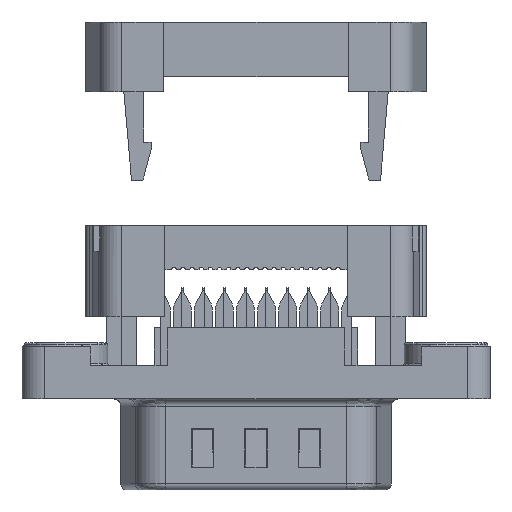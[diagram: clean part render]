
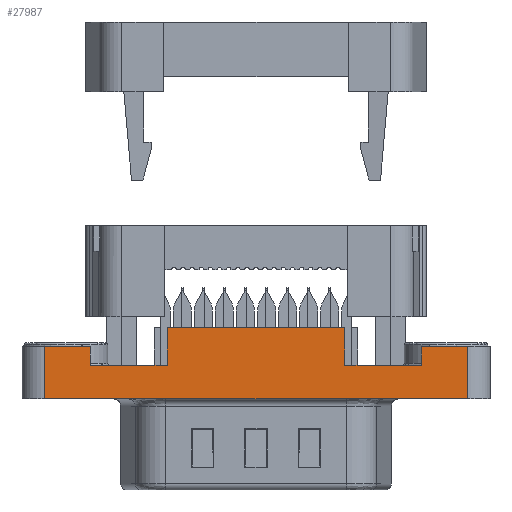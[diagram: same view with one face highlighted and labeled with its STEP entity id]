
A CAD part, front view. The second image highlights one B-rep face of the part: STEP entity #27987.
In plain terms, the highlighted planar face has unit normal (0, -1, 0).
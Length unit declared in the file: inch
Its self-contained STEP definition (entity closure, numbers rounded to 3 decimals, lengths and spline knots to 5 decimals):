
#130 = VERTEX_POINT ( 'NONE', #16359 ) ;
#527 = LINE ( 'NONE', #31569, #22402 ) ;
#558 = VECTOR ( 'NONE', #21174, 39.37008 ) ;
#1211 = CARTESIAN_POINT ( 'NONE',  ( -1.88848, 0.38027, 0.10951 ) ) ;
#1310 = LINE ( 'NONE', #13177, #30810 ) ;
#2775 = VERTEX_POINT ( 'NONE', #14000 ) ;
#2844 = DIRECTION ( 'NONE',  ( 1., 0., 0. ) ) ;
#2912 = CARTESIAN_POINT ( 'NONE',  ( -2.00659, 0.38027, 0.10951 ) ) ;
#3287 = DIRECTION ( 'NONE',  ( 0., 0., -1. ) ) ;
#3403 = ORIENTED_EDGE ( 'NONE', *, *, #4699, .F. ) ;
#4699 = EDGE_CURVE ( 'NONE', #22787, #25798, #1310, .T. ) ;
#4796 = DIRECTION ( 'NONE',  ( 0., 0., 1. ) ) ;
#4803 = DIRECTION ( 'NONE',  ( 0., 0., -1. ) ) ;
#6307 = CARTESIAN_POINT ( 'NONE',  ( -1.03021, 0.38027, -0.00978 ) ) ;
#7092 = VECTOR ( 'NONE', #25280, 39.37008 ) ;
#7153 = VERTEX_POINT ( 'NONE', #32714 ) ;
#7432 = PLANE ( 'NONE',  #22238 ) ;
#7435 = VERTEX_POINT ( 'NONE', #22308 ) ;
#7512 = DIRECTION ( 'NONE',  ( 1., 0., 0. ) ) ;
#7519 = EDGE_CURVE ( 'NONE', #7153, #2775, #31250, .T. ) ;
#8164 = ORIENTED_EDGE ( 'NONE', *, *, #23855, .F. ) ;
#8484 = VECTOR ( 'NONE', #2844, 39.37008 ) ;
#8589 = EDGE_CURVE ( 'NONE', #7435, #17247, #17730, .T. ) ;
#8994 = CARTESIAN_POINT ( 'NONE',  ( -2.00659, 0.38027, 0.06109 ) ) ;
#10977 = CARTESIAN_POINT ( 'NONE',  ( -2.00659, 0.38027, 0.10951 ) ) ;
#11181 = ORIENTED_EDGE ( 'NONE', *, *, #35581, .F. ) ;
#11545 = LINE ( 'NONE', #6307, #23119 ) ;
#11718 = ORIENTED_EDGE ( 'NONE', *, *, #19691, .F. ) ;
#11893 = DIRECTION ( 'NONE',  ( 0., 0., -1. ) ) ;
#12296 = VERTEX_POINT ( 'NONE', #23537 ) ;
#12734 = VERTEX_POINT ( 'NONE', #2912 ) ;
#12806 = CARTESIAN_POINT ( 'NONE',  ( -2.00659, 0.38027, 0.06109 ) ) ;
#12854 = CARTESIAN_POINT ( 'NONE',  ( -0.9121, 0.38027, -0.02552 ) ) ;
#12873 = VECTOR ( 'NONE', #13749, 39.37008 ) ;
#13174 = CARTESIAN_POINT ( 'NONE',  ( -2.00659, 0.38027, -0.02552 ) ) ;
#13177 = CARTESIAN_POINT ( 'NONE',  ( -1.22903, 0.38027, 0.15951 ) ) ;
#13217 = DIRECTION ( 'NONE',  ( 0., 0., 1. ) ) ;
#13269 = CARTESIAN_POINT ( 'NONE',  ( -1.68966, 0.38027, 0.15951 ) ) ;
#13333 = EDGE_CURVE ( 'NONE', #22385, #2775, #527, .T. ) ;
#13749 = DIRECTION ( 'NONE',  ( 1., 0., 0. ) ) ;
#14000 = CARTESIAN_POINT ( 'NONE',  ( -1.68966, 0.38027, 0.06109 ) ) ;
#14063 = EDGE_CURVE ( 'NONE', #25798, #130, #26789, .T. ) ;
#14975 = ORIENTED_EDGE ( 'NONE', *, *, #35258, .F. ) ;
#15302 = LINE ( 'NONE', #16865, #27431 ) ;
#15584 = VECTOR ( 'NONE', #13217, 39.37008 ) ;
#15723 = CARTESIAN_POINT ( 'NONE',  ( -1.22903, 0.38027, 0.15951 ) ) ;
#15939 = CARTESIAN_POINT ( 'NONE',  ( -2.00659, 0.38027, -0.00978 ) ) ;
#16165 = EDGE_CURVE ( 'NONE', #130, #20727, #11545, .T. ) ;
#16359 = CARTESIAN_POINT ( 'NONE',  ( -1.03021, 0.38027, 0.06109 ) ) ;
#16377 = VECTOR ( 'NONE', #3287, 39.37008 ) ;
#16436 = CARTESIAN_POINT ( 'NONE',  ( -1.22903, 0.38027, 0.06109 ) ) ;
#16865 = CARTESIAN_POINT ( 'NONE',  ( -1.03021, 0.38027, 0.10951 ) ) ;
#17079 = ORIENTED_EDGE ( 'NONE', *, *, #13333, .T. ) ;
#17247 = VERTEX_POINT ( 'NONE', #12854 ) ;
#17730 = LINE ( 'NONE', #34256, #16377 ) ;
#17922 = DIRECTION ( 'NONE',  ( 0., 0., 1. ) ) ;
#18850 = LINE ( 'NONE', #26726, #558 ) ;
#19691 = EDGE_CURVE ( 'NONE', #12734, #22745, #24501, .T. ) ;
#19884 = ORIENTED_EDGE ( 'NONE', *, *, #14063, .F. ) ;
#20293 = LINE ( 'NONE', #28998, #34144 ) ;
#20727 = VERTEX_POINT ( 'NONE', #27289 ) ;
#21174 = DIRECTION ( 'NONE',  ( -1., 0., 0. ) ) ;
#22238 = AXIS2_PLACEMENT_3D ( 'NONE', #13174, #33120, #4796 ) ;
#22308 = CARTESIAN_POINT ( 'NONE',  ( -0.9121, 0.38027, 0.10951 ) ) ;
#22385 = VERTEX_POINT ( 'NONE', #13269 ) ;
#22394 = EDGE_CURVE ( 'NONE', #20727, #7435, #15302, .T. ) ;
#22402 = VECTOR ( 'NONE', #26227, 39.37008 ) ;
#22745 = VERTEX_POINT ( 'NONE', #1211 ) ;
#22787 = VERTEX_POINT ( 'NONE', #36516 ) ;
#23119 = VECTOR ( 'NONE', #17922, 39.37008 ) ;
#23537 = CARTESIAN_POINT ( 'NONE',  ( -2.00659, 0.38027, -0.02552 ) ) ;
#23541 = ORIENTED_EDGE ( 'NONE', *, *, #8589, .F. ) ;
#23855 = EDGE_CURVE ( 'NONE', #17247, #12296, #18850, .T. ) ;
#23872 = LINE ( 'NONE', #15723, #24798 ) ;
#24501 = LINE ( 'NONE', #10977, #12873 ) ;
#24798 = VECTOR ( 'NONE', #7512, 39.37008 ) ;
#25156 = ORIENTED_EDGE ( 'NONE', *, *, #22394, .F. ) ;
#25280 = DIRECTION ( 'NONE',  ( 1., 0., 0. ) ) ;
#25798 = VERTEX_POINT ( 'NONE', #16436 ) ;
#26219 = FACE_OUTER_BOUND ( 'NONE', #33210, .T. ) ;
#26222 = ORIENTED_EDGE ( 'NONE', *, *, #16165, .F. ) ;
#26227 = DIRECTION ( 'NONE',  ( 0., 0., -1. ) ) ;
#26726 = CARTESIAN_POINT ( 'NONE',  ( -0.85305, 0.38027, -0.02552 ) ) ;
#26789 = LINE ( 'NONE', #12806, #7092 ) ;
#27289 = CARTESIAN_POINT ( 'NONE',  ( -1.03021, 0.38027, 0.10951 ) ) ;
#27431 = VECTOR ( 'NONE', #33086, 39.37008 ) ;
#27987 = ADVANCED_FACE ( 'NONE', ( #26219 ), #7432, .F. ) ;
#28281 = ORIENTED_EDGE ( 'NONE', *, *, #7519, .F. ) ;
#28998 = CARTESIAN_POINT ( 'NONE',  ( -1.88848, 0.38027, -0.00978 ) ) ;
#30442 = ORIENTED_EDGE ( 'NONE', *, *, #34404, .F. ) ;
#30810 = VECTOR ( 'NONE', #4803, 39.37008 ) ;
#31250 = LINE ( 'NONE', #8994, #8484 ) ;
#31569 = CARTESIAN_POINT ( 'NONE',  ( -1.68966, 0.38027, 0.15951 ) ) ;
#32714 = CARTESIAN_POINT ( 'NONE',  ( -1.88848, 0.38027, 0.06109 ) ) ;
#33086 = DIRECTION ( 'NONE',  ( 1., 0., 0. ) ) ;
#33120 = DIRECTION ( 'NONE',  ( 0., 1., 0. ) ) ;
#33210 = EDGE_LOOP ( 'NONE', ( #23541, #25156, #26222, #19884, #3403, #11181, #17079, #28281, #14975, #11718, #30442, #8164 ) ) ;
#33890 = LINE ( 'NONE', #15939, #15584 ) ;
#34144 = VECTOR ( 'NONE', #11893, 39.37008 ) ;
#34256 = CARTESIAN_POINT ( 'NONE',  ( -0.9121, 0.38027, -0.02552 ) ) ;
#34404 = EDGE_CURVE ( 'NONE', #12296, #12734, #33890, .T. ) ;
#35258 = EDGE_CURVE ( 'NONE', #22745, #7153, #20293, .T. ) ;
#35581 = EDGE_CURVE ( 'NONE', #22385, #22787, #23872, .T. ) ;
#36516 = CARTESIAN_POINT ( 'NONE',  ( -1.22903, 0.38027, 0.15951 ) ) ;
